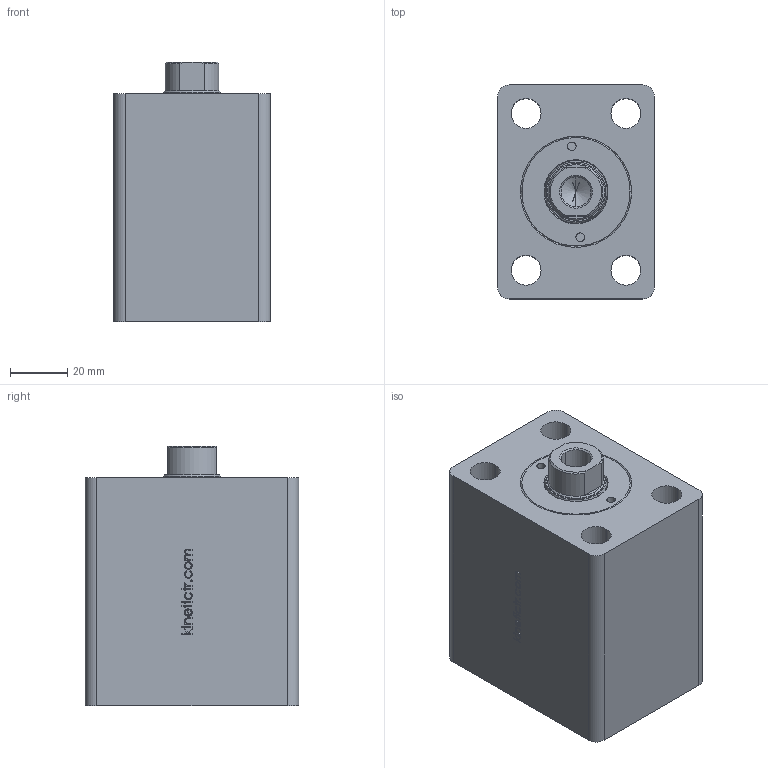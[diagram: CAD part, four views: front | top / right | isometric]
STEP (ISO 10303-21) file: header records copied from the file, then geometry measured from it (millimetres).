
FILE_DESCRIPTION (( 'STEP AP214' ), '1' );
FILE_NAME ('KBZ_02_32_20_30_WEB.STEP', '2020-05-27T09:15:17', ( '' ), ( '' ), 'SwSTEP 2.0', 'SolidWorks 2018', '' );
FILE_SCHEMA (( 'AUTOMOTIVE_DESIGN' ));
Length unit declared in the file: millimetre
Products named in the file (5): KBZ_02_32_GOVDE; KBZ_02_32_ON_kapak_WEB; 20_K_MIL; K06-20X25X4_3X6; KBZ_02_32_20_30_WEB
Assembly tree (4 placements, depth 2):
  KBZ_02_32_20_30_WEB
    KBZ_02_32_GOVDE
    20_K_MIL
    KBZ_02_32_ON_kapak_WEB
    K06-20X25X4_3X6
Bounding box: 55 x 75 x 91 mm (x, y, z)
Volume: 274734.5 mm3; surface area: 57663 mm2
Topology: 4 solids, 4 shells, 341 faces, 825 edges, 526 vertices
Faces by surface type: plane 133, cylinder 72, bspline 69, cone 67
Entity records: 13510 total; most frequent: CARTESIAN_POINT 5543, ORIENTED_EDGE 1646, DIRECTION 1438, EDGE_CURVE 823, VERTEX_POINT 526, AXIS2_PLACEMENT_3D 491, VECTOR 456, LINE 456
